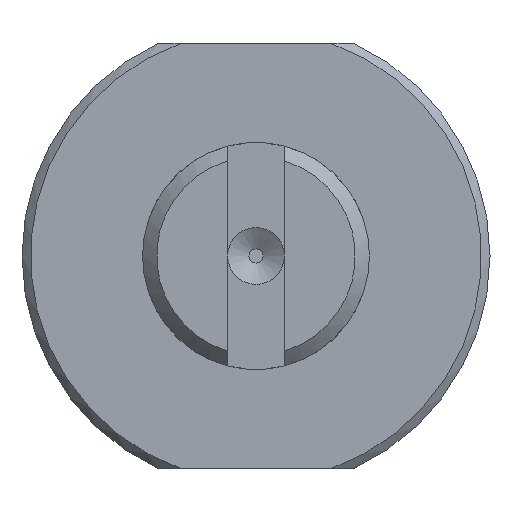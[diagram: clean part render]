
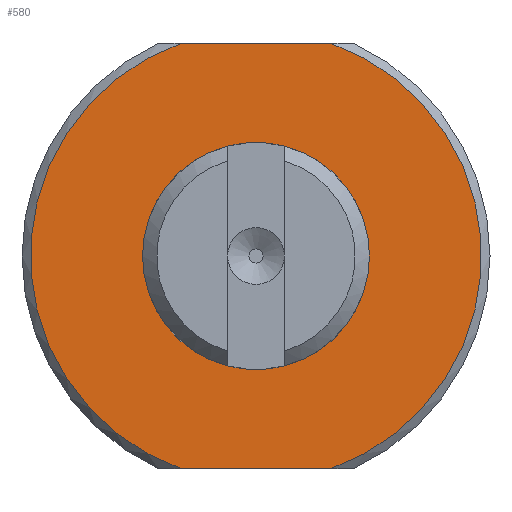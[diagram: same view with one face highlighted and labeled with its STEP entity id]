
A CAD part, left-side view. The second image highlights one B-rep face of the part: STEP entity #580.
In plain terms, the highlighted planar face has unit normal (-1, 0, 0) as drawn and (1, 0, 0) by its records, which use the part's own axes.
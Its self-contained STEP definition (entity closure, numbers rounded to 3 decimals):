
#54=FACE_BOUND('',#190,.T.);
#90=CIRCLE('',#619,4.);
#102=CIRCLE('',#641,7.95);
#104=CIRCLE('',#645,7.95);
#142=FACE_OUTER_BOUND('',#189,.T.);
#189=EDGE_LOOP('',(#485,#486,#487,#488));
#190=EDGE_LOOP('',(#489));
#259=LINE('',#983,#277);
#263=LINE('',#1012,#281);
#277=VECTOR('',#762,5.274);
#281=VECTOR('',#784,5.274);
#297=VERTEX_POINT('',#940);
#308=VERTEX_POINT('',#978);
#309=VERTEX_POINT('',#982);
#314=VERTEX_POINT('',#1002);
#316=VERTEX_POINT('',#1011);
#356=EDGE_CURVE('',#297,#297,#90,.T.);
#371=EDGE_CURVE('',#309,#308,#259,.T.);
#379=EDGE_CURVE('',#309,#314,#102,.T.);
#383=EDGE_CURVE('',#316,#314,#263,.T.);
#386=EDGE_CURVE('',#316,#308,#104,.T.);
#485=ORIENTED_EDGE('',*,*,#379,.F.);
#486=ORIENTED_EDGE('',*,*,#371,.T.);
#487=ORIENTED_EDGE('',*,*,#386,.F.);
#488=ORIENTED_EDGE('',*,*,#383,.T.);
#489=ORIENTED_EDGE('',*,*,#356,.F.);
#556=PLANE('',#644);
#580=ADVANCED_FACE('',(#142,#54),#556,.T.);
#619=AXIS2_PLACEMENT_3D('',#941,#728,#729);
#641=AXIS2_PLACEMENT_3D('',#1003,#777,#778);
#644=AXIS2_PLACEMENT_3D('',#1018,#786,#787);
#645=AXIS2_PLACEMENT_3D('',#1019,#788,#789);
#728=DIRECTION('center_axis',(1.,0.,0.));
#729=DIRECTION('ref_axis',(0.,0.,-1.));
#762=DIRECTION('',(0.,-1.,0.));
#777=DIRECTION('center_axis',(-1.,0.,0.));
#778=DIRECTION('ref_axis',(0.,1.,0.));
#784=DIRECTION('',(0.,1.,0.));
#786=DIRECTION('center_axis',(1.,0.,0.));
#787=DIRECTION('ref_axis',(0.,0.,-1.));
#788=DIRECTION('center_axis',(-1.,0.,0.));
#789=DIRECTION('ref_axis',(0.,-1.,0.));
#940=CARTESIAN_POINT('',(10.5,4.,0.));
#941=CARTESIAN_POINT('Origin',(10.5,0.,0.));
#978=CARTESIAN_POINT('',(10.5,-2.637,7.5));
#982=CARTESIAN_POINT('',(10.5,2.637,7.5));
#983=CARTESIAN_POINT('',(10.5,3.718,7.5));
#1002=CARTESIAN_POINT('',(10.5,2.637,-7.5));
#1003=CARTESIAN_POINT('Origin',(10.5,0.,0.));
#1011=CARTESIAN_POINT('',(10.5,-2.637,-7.5));
#1012=CARTESIAN_POINT('',(10.5,0.282,-7.5));
#1018=CARTESIAN_POINT('Origin',(10.5,4.,0.));
#1019=CARTESIAN_POINT('Origin',(10.5,0.,0.));
